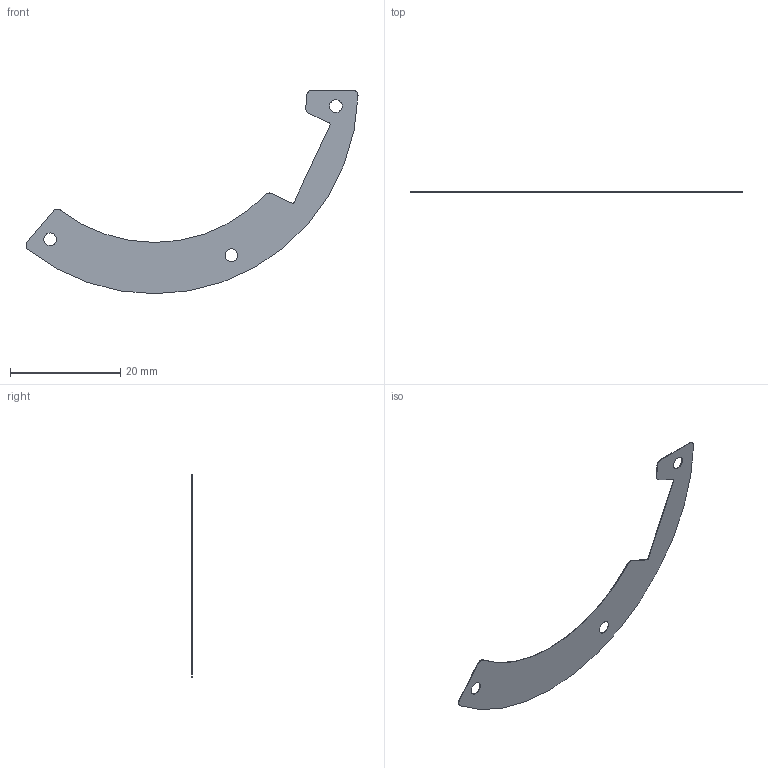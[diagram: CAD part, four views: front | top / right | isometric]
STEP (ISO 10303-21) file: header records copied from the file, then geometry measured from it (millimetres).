
FILE_DESCRIPTION (( 'STEP AP214' ), '1' );
FILE_NAME ('MN02237D02_01.STEP', '2023-12-18T13:16:58', ( '' ), ( '' ), 'SwSTEP 2.0', 'SolidWorks 2022', '' );
FILE_SCHEMA (( 'AUTOMOTIVE_DESIGN' ));
Length unit declared in the file: millimetre
Products named in the file (1): MN02237D02_01
Bounding box: 60.19 x 0.1 x 36.9 mm (x, y, z)
Volume: 59.8 mm3; surface area: 1216.2 mm2
Topology: 1 solids, 1 shells, 27 faces, 75 edges, 50 vertices
Faces by surface type: cylinder 20, plane 7
Entity records: 935 total; most frequent: DIRECTION 171, CARTESIAN_POINT 153, ORIENTED_EDGE 150, EDGE_CURVE 75, AXIS2_PLACEMENT_3D 68, VERTEX_POINT 50, CIRCLE 40, VECTOR 35
